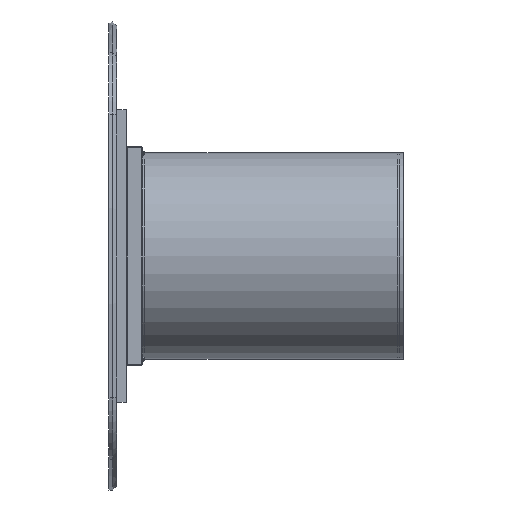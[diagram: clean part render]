
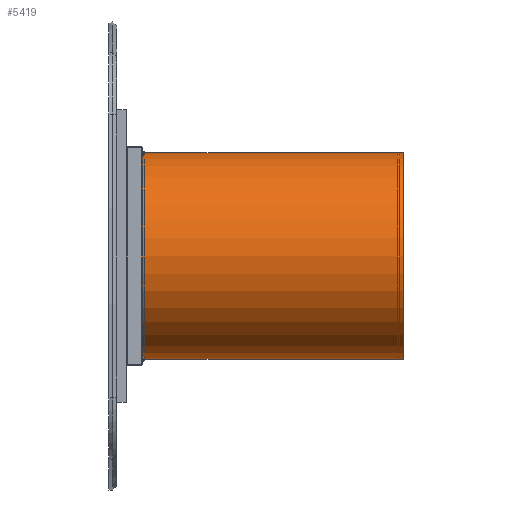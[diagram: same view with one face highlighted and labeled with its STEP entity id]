
A CAD part, left-side view. The second image highlights one B-rep face of the part: STEP entity #5419.
In plain terms, the highlighted cylindrical face has radius 265 mm (diameter 530 mm), a partial arc.
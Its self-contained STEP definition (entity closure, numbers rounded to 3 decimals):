
#494 = CARTESIAN_POINT ( 'NONE',  ( 0., 670., 265. ) ) ;
#940 = DIRECTION ( 'NONE',  ( 0., 0., 1. ) ) ;
#1481 = CIRCLE ( 'NONE', #14208, 265. ) ;
#1774 = ORIENTED_EDGE ( 'NONE', *, *, #6832, .T. ) ;
#2345 = DIRECTION ( 'NONE',  ( 0., 0., -1. ) ) ;
#3242 = EDGE_CURVE ( 'NONE', #14651, #7245, #5644, .T. ) ;
#4277 = DIRECTION ( 'NONE',  ( 0., 0., 1. ) ) ;
#4618 = AXIS2_PLACEMENT_3D ( 'NONE', #13245, #13509, #2345 ) ;
#5044 = CIRCLE ( 'NONE', #10719, 265. ) ;
#5237 = CARTESIAN_POINT ( 'NONE',  ( 0., 0., -265. ) ) ;
#5419 = ADVANCED_FACE ( 'NONE', ( #10669 ), #12019, .T. ) ;
#5644 = LINE ( 'NONE', #494, #16575 ) ;
#5733 = DIRECTION ( 'NONE',  ( 0., -1., 0. ) ) ;
#6487 = CARTESIAN_POINT ( 'NONE',  ( 0., 0., 265. ) ) ;
#6832 = EDGE_CURVE ( 'NONE', #7195, #7245, #1481, .T. ) ;
#6969 = LINE ( 'NONE', #9726, #8795 ) ;
#7195 = VERTEX_POINT ( 'NONE', #5237 ) ;
#7245 = VERTEX_POINT ( 'NONE', #6487 ) ;
#8193 = CARTESIAN_POINT ( 'NONE',  ( 0., 0., 0. ) ) ;
#8393 = DIRECTION ( 'NONE',  ( 0., -1., 0. ) ) ;
#8795 = VECTOR ( 'NONE', #8393, 1000. ) ;
#9080 = CARTESIAN_POINT ( 'NONE',  ( 0., 670., 0. ) ) ;
#9516 = CARTESIAN_POINT ( 'NONE',  ( 0., 670., -265. ) ) ;
#9726 = CARTESIAN_POINT ( 'NONE',  ( 0., 670., -265. ) ) ;
#10443 = CARTESIAN_POINT ( 'NONE',  ( 0., 670., 265. ) ) ;
#10669 = FACE_OUTER_BOUND ( 'NONE', #17286, .T. ) ;
#10677 = DIRECTION ( 'NONE',  ( 0., 1., 0. ) ) ;
#10719 = AXIS2_PLACEMENT_3D ( 'NONE', #9080, #10677, #940 ) ;
#11116 = DIRECTION ( 'NONE',  ( 0., 1., 0. ) ) ;
#12019 = CYLINDRICAL_SURFACE ( 'NONE', #4618, 265. ) ;
#12465 = ORIENTED_EDGE ( 'NONE', *, *, #16224, .T. ) ;
#12678 = ORIENTED_EDGE ( 'NONE', *, *, #3242, .F. ) ;
#13245 = CARTESIAN_POINT ( 'NONE',  ( 0., 670., 0. ) ) ;
#13509 = DIRECTION ( 'NONE',  ( 0., -1., 0. ) ) ;
#14045 = VERTEX_POINT ( 'NONE', #9516 ) ;
#14208 = AXIS2_PLACEMENT_3D ( 'NONE', #8193, #11116, #4277 ) ;
#14651 = VERTEX_POINT ( 'NONE', #10443 ) ;
#15093 = EDGE_CURVE ( 'NONE', #14045, #14651, #5044, .T. ) ;
#16224 = EDGE_CURVE ( 'NONE', #14045, #7195, #6969, .T. ) ;
#16575 = VECTOR ( 'NONE', #5733, 1000. ) ;
#16838 = ORIENTED_EDGE ( 'NONE', *, *, #15093, .F. ) ;
#17286 = EDGE_LOOP ( 'NONE', ( #12678, #16838, #12465, #1774 ) ) ;
